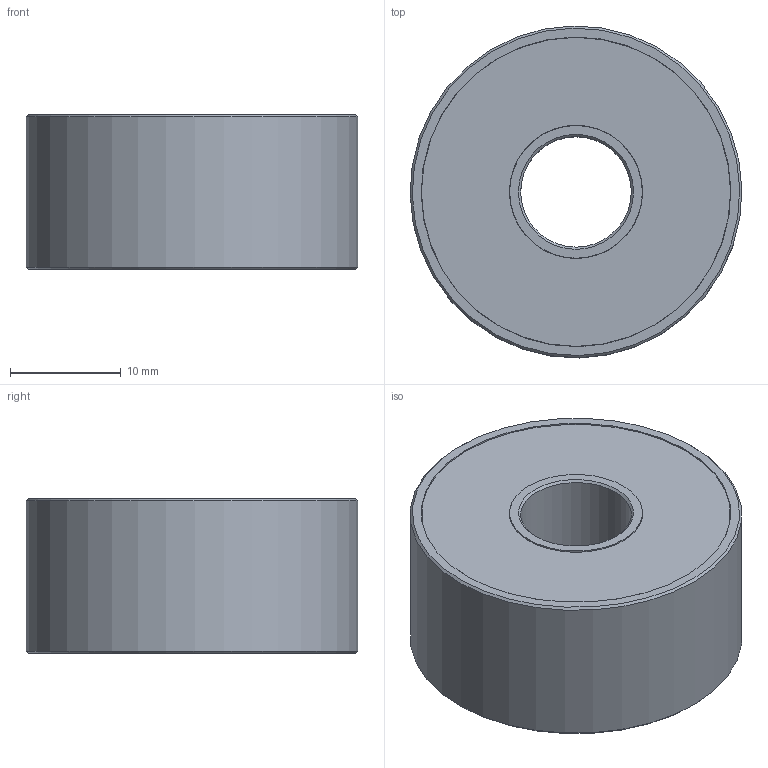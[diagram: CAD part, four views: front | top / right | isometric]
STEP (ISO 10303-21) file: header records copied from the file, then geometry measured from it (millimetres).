
FILE_DESCRIPTION(/* description */ ('Angular contact ball bearings 10x30x14'),/* implementation_level */ '2;1');
FILE_NAME(/* name */ 'Schrgkugellager_10x30x14.stp',/* time_stamp */ '2024-02-29T13:59:02+01:00',/* author */ ('Felhasznalo'),/* organization */ ('Motedis Group'),/* preprocessor_version */ 'ST-DEVELOPER v19.2',/* originating_system */ 'Autodesk Inventor 2024',/* authorisation */ 'Motedis Group');
FILE_SCHEMA (('AUTOMOTIVE_DESIGN { 1 0 10303 214 3 1 1 }'));
Length unit declared in the file: millimetre
Products named in the file (4): Angular_contact_ball_bearings_10x30x14; 3; 1; 2
Assembly tree (3 placements, depth 2):
  Angular_contact_ball_bearings_10x30x14
    3
    1
    2
Bounding box: 30 x 30 x 14 mm (x, y, z)
Volume: 8647.5 mm3; surface area: 6473.7 mm2
Topology: 3 solids, 3 shells, 16 faces, 28 edges, 18 vertices
Faces by surface type: cylinder 6, plane 6, cone 4
Full cylindrical faces by diameter (mm): 10 x1, 12 x1, 12.05 x1, 27.95 x1, 28 x1, 30 x1
Entity records: 570 total; most frequent: DIRECTION 94, CARTESIAN_POINT 70, ORIENTED_EDGE 56, AXIS2_PLACEMENT_3D 42, EDGE_CURVE 28, EDGE_LOOP 22, CIRCLE 18, VERTEX_POINT 18
